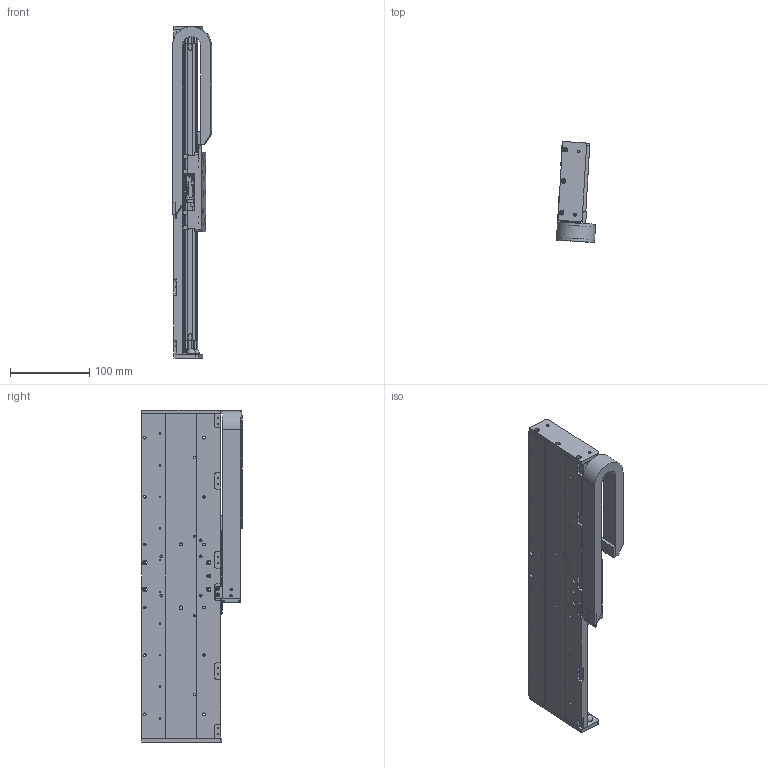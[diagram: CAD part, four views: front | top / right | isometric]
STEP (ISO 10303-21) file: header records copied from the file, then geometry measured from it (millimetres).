
FILE_DESCRIPTION(/* description */ (''),/* implementation_level */ '2;1');
FILE_NAME(/* name */ 'I:\FY15 Projects\MSR\MSR100\Web Step Models\mSR100L-300XLSXXXXXXCM13.stp',/* time_stamp */ '2015-02-18T13:15:42-05:00',/* author */ ('BF20108'),/* organization */ (''),/* preprocessor_version */ 'ST-DEVELOPER v15.2',/* originating_system */ 'Autodesk Inventor 2014',/* authorisation */ '');
FILE_SCHEMA (('AUTOMOTIVE_DESIGN { 1 0 10303 214 3 1 1 }'));
Products named in the file (18): 102-5710-07; 003-3562-39; 102-5702-06; ml18-120m-n; ml18-80m-n; 102-5703-01; 102-5705-01; 002-3740-07; 102-5701; 003-3561; ML18-3E; 003-5000; 002-3740-short-carriage-assy; mx100-mcb; mx100-scb; e045-16-018-carrier-05; 002-3740-cbl-carr-sc-05; 002-3740
Bounding box: 49.52 x 127.65 x 420 mm (x, y, z)
Volume: 717486.6 mm3; surface area: 341476.6 mm2
Topology: 25 solids, 26 shells, 2699 faces, 7249 edges, 4658 vertices
Faces by surface type: plane 1353, cylinder 991, cone 183, torus 160, bspline 8, sphere 4
Full cylindrical faces by diameter (mm): 0.5 x8, 1 x4, 1.567 x87, 1.588 x2, 2.007 x12, 2.013 x14, 2.135 x4, 2.4 x54, 2.459 x22, 2.5 x20, 2.642 x4, 2.75 x1, 3 x24, 3.242 x15, 3.4 x26, 3.505 x4, 4 x4, 4.17 x2, 4.2 x55, 4.5 x18, 5 x8, 5.08 x2, 6 x30, 11.176 x4
Entity records: 57198 total; most frequent: CARTESIAN_POINT 10727, DIRECTION 9653, ORIENTED_EDGE 8926, EDGE_CURVE 4451, AXIS2_PLACEMENT_3D 3420, VERTEX_POINT 3109, LINE 2813, VECTOR 2813
